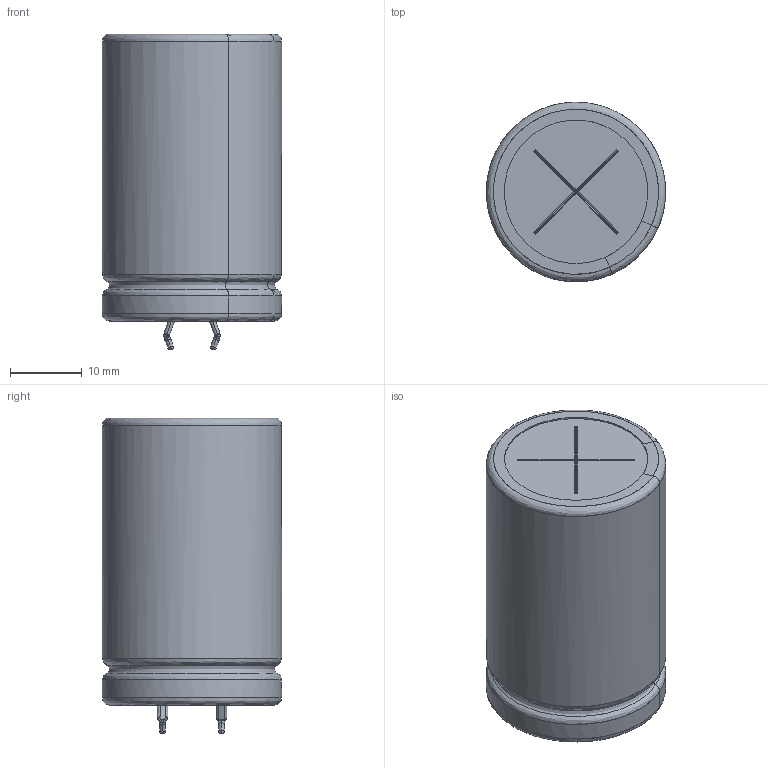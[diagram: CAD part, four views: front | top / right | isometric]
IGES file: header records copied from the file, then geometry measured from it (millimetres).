
Start section: JAMA-IS VERSION  1.0
Bounding box: 24.98 x 24.98 x 44.02 mm (x, y, z)
Surface area: 11123.4 mm2 (no closed solid volume)
Topology: 0 solids, 0 shells, 208 faces, 2226 edges, 2190 vertices
Faces by surface type: bspline 208
